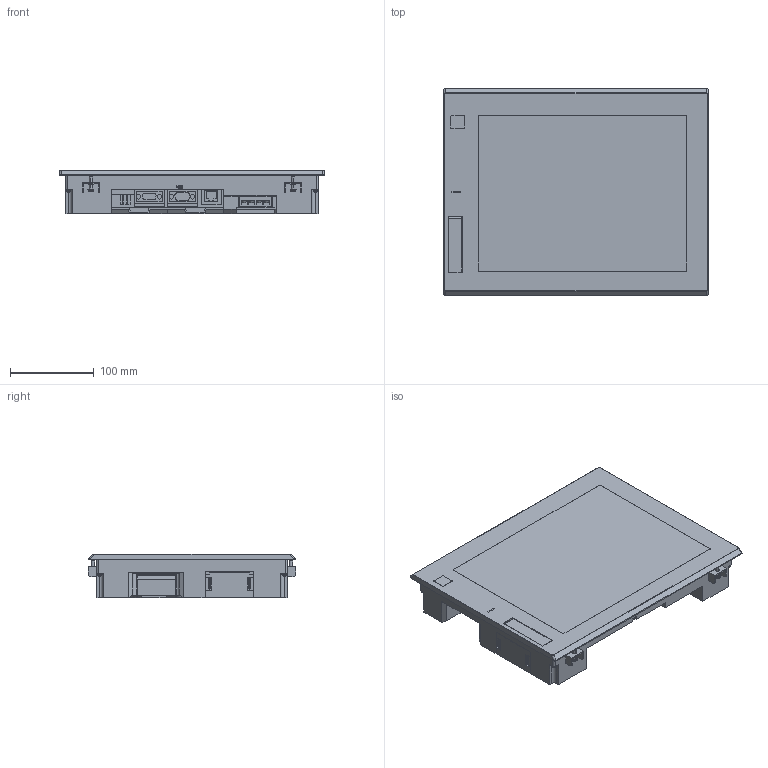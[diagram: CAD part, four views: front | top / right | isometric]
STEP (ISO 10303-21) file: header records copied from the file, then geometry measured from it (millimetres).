
FILE_DESCRIPTION((''),'2;1');
FILE_NAME('GT2712_ASM','2013-09-03T',('KW48605'),(''),'PRO/ENGINEER BY PARAMETRIC TECHNOLOGY CORPORATION, 2011490','PRO/ENGINEER BY PARAMETRIC TECHNOLOGY CORPORATION, 2011490','');
FILE_SCHEMA(('CONFIG_CONTROL_DESIGN'));
Length unit declared in the file: millimetre
Products named in the file (6): GT2712; COVER_1; COVER_2; COVER_3; TORITUKE; GT2712_ASM
Assembly tree (9 placements, depth 2):
  GT2712_ASM
    GT2712
    COVER_1  x2
    COVER_2
    COVER_3
    TORITUKE  x4
Bounding box: 316 x 247 x 52.05 mm (x, y, z)
Volume: 3113127 mm3; surface area: 265832.8 mm2
Topology: 9 solids, 13 shells, 724 faces, 1998 edges, 1328 vertices
Faces by surface type: plane 477, cylinder 165, cone 32, sphere 26, torus 20, bspline 4
Entity records: 21332 total; most frequent: CARTESIAN_POINT 5162, ORIENTED_EDGE 3428, DIRECTION 3206, EDGE_CURVE 1714, VECTOR 1208, LINE 1208, VERTEX_POINT 1156, AXIS2_PLACEMENT_3D 999
